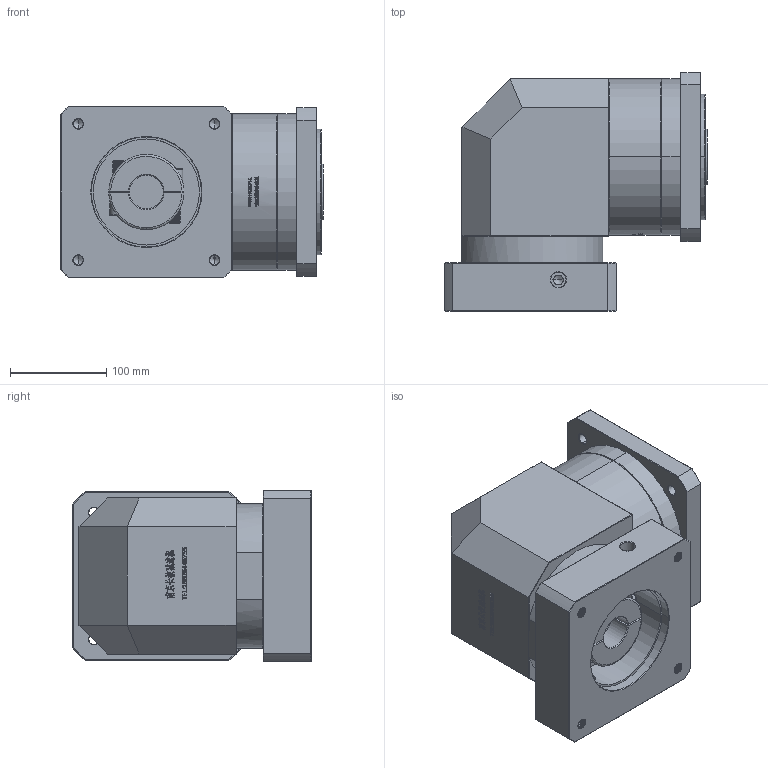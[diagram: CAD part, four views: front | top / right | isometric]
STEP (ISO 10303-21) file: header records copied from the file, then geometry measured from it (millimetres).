
FILE_DESCRIPTION (( 'STEP AP214' ), '1' );
FILE_NAME ('ZFR160A-K35-L1-35-114.3-200-M12.step', '2023-03-22T11:47:46', ( '' ), ( '' ), 'SwSTEP 2.0', 'SolidWorks 2016', '' );
FILE_SCHEMA (( 'AUTOMOTIVE_DESIGN' ));
Length unit declared in the file: millimetre
Products named in the file (1): ZFR160A-K35-L1-35-114.3-200-M12
Bounding box: 272.7 x 247.5 x 178 mm (x, y, z)
Volume: 6940007.1 mm3; surface area: 461240.8 mm2
Topology: 6 solids, 6 shells, 2444 faces, 6440 edges, 4149 vertices
Faces by surface type: plane 1266, bspline 490, cylinder 364, cone 304, torus 20
Entity records: 135449 total; most frequent: CARTESIAN_POINT 52240, ORIENTED_EDGE 12824, DIRECTION 9789, EDGE_CURVE 6412, VERTEX_POINT 4149, LINE 4087, VECTOR 4087, AXIS2_PLACEMENT_3D 2851
